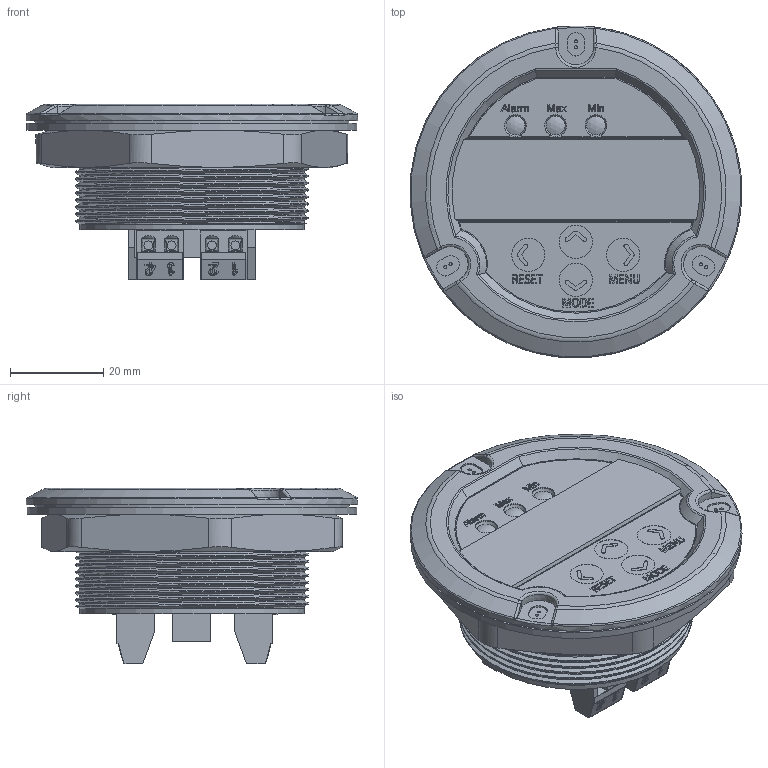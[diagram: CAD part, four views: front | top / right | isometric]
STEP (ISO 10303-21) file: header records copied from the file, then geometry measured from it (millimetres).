
FILE_DESCRIPTION (( 'STEP AP214' ), '1' );
FILE_NAME ('mps_dpm_dmr30_pm1_a.STEP', '2019-11-25T16:41:23', ( '' ), ( '' ), 'SwSTEP 2.0', 'SolidWorks 2017', '' );
FILE_SCHEMA (( 'AUTOMOTIVE_DESIGN' ));
Length unit declared in the file: inch
Products named in the file (2): mps_dpm_dmr30_pm1_a
Bounding box: 71.05 x 71.08 x 37.57 mm (x, y, z)
Volume: 42317.3 mm3; surface area: 39964.4 mm2
Topology: 28 solids, 28 shells, 1606 faces, 4066 edges, 2643 vertices
Faces by surface type: plane 981, bspline 277, cylinder 255, cone 62, torus 23, sphere 8
Full cylindrical faces by diameter (mm): 0.152 x4, 0.559 x5, 1.871 x8, 2.311 x3, 2.794 x8, 3.175 x8, 7.1 x4, 7.112 x4, 48.108 x1, 50.8 x1, 67.31 x1, 70.612 x1, 71.12 x1
Entity records: 84715 total; most frequent: CARTESIAN_POINT 27179, ORIENTED_EDGE 7926, DIRECTION 6492, EDGE_CURVE 3963, VERTEX_POINT 2607, VECTOR 2562, LINE 2562, AXIS2_PLACEMENT_3D 1965
